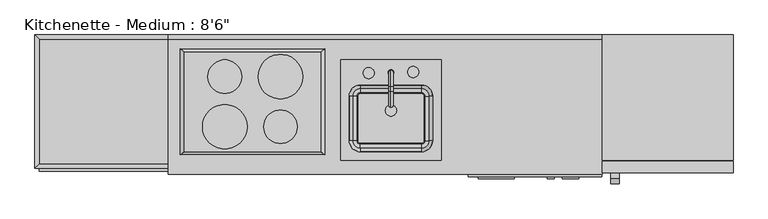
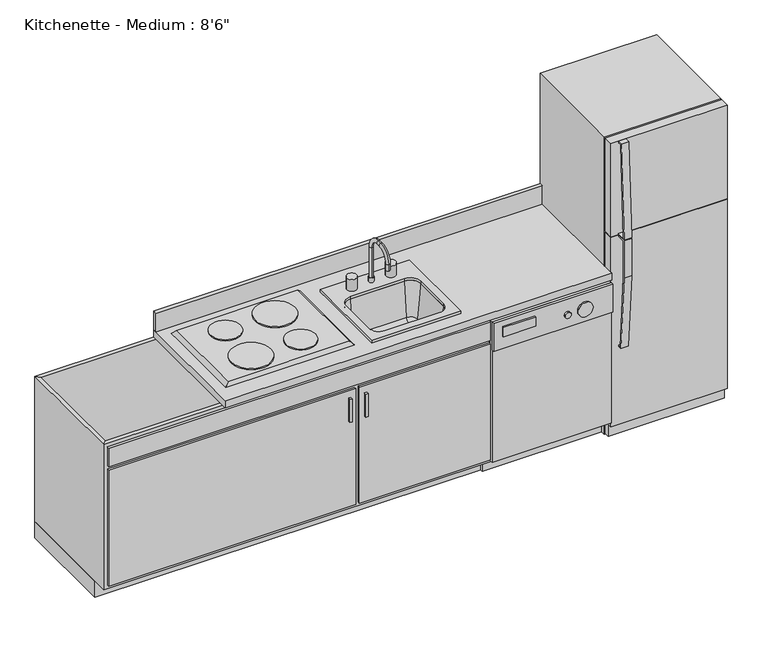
"""IFC4 building model written with IfcOpenShell, lengths in millimetres: proxy geometry."""

from ifc_helpers import new_model, si_unit, point, frame, frame_2d, origin, origin_with_axes, place, context, project, spatial, polyline, circle_curve, ellipse_curve, trimmed, segment, composite_curve, outline, extrude, faceted_brep, source, transform, mapped, element, save
from ifc_brep_helpers import plane_surface, cylinder_surface, revolved_surface, advanced_brep


def proxy_64a468c4(model_context):
    return source(origin(), model_context, "Body", "SolidModel", [
        extrude(outline(polyline([(911.8307496, -655.8359375), (746.7307496, -655.8359375), (746.7307496, -647.7), (911.8307496, -647.7), (911.8307496, -655.8359375)])), frame((0.0, 0.0, 780.0846419), z_axis=(0.0, 0.0, 1.0), x_axis=(1.0, 0.0, 0.0)), (0.0, 0.0, 1.0), 50.8),
        extrude(outline(composite_curve([segment(trimmed(circle_curve(frame_2d((780.0846419, 1168.9176561)), 38.1), [point((780.0846419, 1130.8176561))], [point((780.0846419, 1207.0176561))], False, "CARTESIAN"), True, "CONTINUOUS"), segment(trimmed(circle_curve(frame_2d((780.0846419, 1168.9176561)), 38.1), [point((780.0846419, 1207.0176561))], [point((780.0846419, 1130.8176561))], False, "CARTESIAN"), True, "CONTINUOUS")], self_intersect=False)), frame((0.0, -655.8359375, 0.0), z_axis=(0.0, 1.0, 0.0), x_axis=(0.0, 0.0, 1.0)), (0.0, 0.0, 1.0), 8.1359375),
        extrude(outline(composite_curve([segment(trimmed(circle_curve(frame_2d((780.0846419, 1079.3882607)), 15.875), [point((780.0846419, 1063.5132607))], [point((780.0846419, 1095.2632607))], False, "CARTESIAN"), True, "CONTINUOUS"), segment(trimmed(circle_curve(frame_2d((780.0846419, 1079.3882607)), 15.875), [point((780.0846419, 1095.2632607))], [point((780.0846419, 1063.5132607))], False, "CARTESIAN"), True, "CONTINUOUS")], self_intersect=False)), frame((0.0, -655.8359375, 0.0), z_axis=(0.0, 1.0, 0.0), x_axis=(0.0, 0.0, 1.0)), (0.0, 0.0, 1.0), 8.1359375),
        extrude(outline(polyline([(-25.4, 0.0), (-546.1, 0.0), (-546.1, 101.6), (-609.6, 101.6), (-609.6, 863.6), (-25.4, 863.6), (-25.4, 0.0)])), frame((701.7104113, 0.0, 0.0), z_axis=(1.0, 0.0, 0.0), x_axis=(0.0, 1.0, 0.0)), (0.0, 0.0, 1.0), 609.6),
        extrude(outline(polyline([(1311.3104113, -635.0), (1311.3104113, -647.7), (701.7104113, -647.7), (701.7104113, -635.0), (1311.3104113, -635.0)])), frame((0.0, 0.0, 711.2), z_axis=(0.0, 0.0, 1.0), x_axis=(1.0, 0.0, 0.0)), (0.0, 0.0, 1.0), 152.4),
        extrude(outline(polyline([(1311.3104113, -635.0), (701.7104113, -635.0), (701.7104113, -619.125), (1311.3104113, -619.125), (1311.3104113, -635.0)])), frame((0.0, 0.0, 101.6), z_axis=(0.0, 0.0, 1.0), x_axis=(1.0, 0.0, 0.0)), (0.0, 0.0, 1.0), 762.0),
        extrude(outline(polyline([(1911.0377049, 0.0), (1911.0377049, -571.5), (1314.1377049, -571.5), (1314.1377049, 0.0), (1911.0377049, 0.0)])), origin_with_axes(), (0.0, 0.0, 1.0), 1612.9),
        extrude(outline(polyline([(1911.0377049, -577.85), (1911.0377049, -628.65), (1314.1377049, -628.65), (1314.1377049, -577.85), (1911.0377049, -577.85)])), frame((0.0, 0.0, 1106.4875), z_axis=(0.0, 0.0, 1.0), x_axis=(1.0, 0.0, 0.0)), (0.0, 0.0, 1.0), 506.4125),
        extrude(outline(polyline([(1911.0377049, -577.85), (1911.0377049, -628.65), (1314.1377049, -628.65), (1314.1377049, -577.85), (1911.0377049, -577.85)])), frame((0.0, 0.0, 76.2), z_axis=(0.0, 0.0, 1.0), x_axis=(1.0, 0.0, 0.0)), (0.0, 0.0, 1.0), 1027.1125),
        extrude(outline(polyline([(1911.0377049, -577.85), (1911.0377049, -603.25), (1314.1377049, -603.25), (1314.1377049, -577.85), (1911.0377049, -577.85)])), frame((0.0, 0.0, 9.3816357), z_axis=(0.0, 0.0, 1.0), x_axis=(1.0, 0.0, 0.0)), (0.0, 0.0, 1.0), 63.5),
        extrude(outline(polyline([(-653.4883845, 1612.9), (-629.427057, 1612.9), (-629.427057, 1606.55), (-648.2753164, 1606.55), (-674.1496921, 1112.8375), (-629.427057, 1112.8375), (-629.427057, 1106.4875), (-680.028339, 1106.4875), (-653.4883845, 1612.9)])), frame((1352.2377049, 0.0, 0.0), z_axis=(1.0, 0.0, 0.0), x_axis=(0.0, 1.0, 0.0)), (0.0, 0.0, 1.0), 38.4332978),
        extrude(outline(polyline([(-628.65, 1096.9625), (-673.1, 1096.9625), (-673.1, 900.3342469), (-645.6213702, 507.3715334), (-628.65, 507.3715334), (-628.65, 501.0370017), (-651.5439227, 501.0370017), (-679.45, 900.1125), (-679.45, 1103.3125), (-628.65, 1103.3125), (-628.65, 1096.9625)])), frame((1352.2377049, 0.0, 0.0), z_axis=(1.0, 0.0, 0.0), x_axis=(0.0, 1.0, 0.0)), (0.0, 0.0, 1.0), 38.4332978),
        extrude(outline(composite_curve([segment(trimmed(circle_curve(frame_2d((-409.8872951, -419.1)), 101.6), [point((-308.2872951, -419.1))], [point((-511.4872951, -419.1))], False, "CARTESIAN"), True, "CONTINUOUS"), segment(trimmed(circle_curve(frame_2d((-409.8872951, -419.1)), 101.6), [point((-511.4872951, -419.1))], [point((-308.2872951, -419.1))], False, "CARTESIAN"), True, "CONTINUOUS")], self_intersect=False)), frame((0.0, 0.0, 933.45), z_axis=(0.0, 0.0, 1.0), x_axis=(1.0, 0.0, 0.0)), (0.0, 0.0, 1.0), 6.35),
        faceted_brep([(28.2627049, -76.2, 933.45), (-594.0372951, -76.2, 933.45), (-594.0372951, -533.4, 933.45), (28.2627049, -533.4, 933.45), (47.3127049, -63.5, 914.4), (47.3127049, -546.1, 914.4), (-613.0872951, -546.1, 914.4), (-613.0872951, -63.5, 914.4)], [[[0, 1, 2, 3]], [[4, 5, 6, 7]], [[4, 7, 1, 0]], [[7, 6, 2, 1]], [[6, 5, 3, 2]], [[5, 4, 0, 3]]]),
        extrude(outline(composite_curve([segment(trimmed(circle_curve(frame_2d((-409.8872951, -190.5)), 76.5869489), [point((-333.3003462, -190.5))], [point((-486.474244, -190.5))], False, "CARTESIAN"), True, "CONTINUOUS"), segment(trimmed(circle_curve(frame_2d((-409.8872951, -190.5)), 76.5869489), [point((-486.474244, -190.5))], [point((-333.3003462, -190.5))], False, "CARTESIAN"), True, "CONTINUOUS")], self_intersect=False)), frame((0.0, 0.0, 933.45), z_axis=(0.0, 0.0, 1.0), x_axis=(1.0, 0.0, 0.0)), (0.0, 0.0, 1.0), 6.35),
        extrude(outline(composite_curve([segment(trimmed(circle_curve(frame_2d((-155.8872951, -190.5)), 101.6), [point((-54.2872951, -190.5))], [point((-257.4872951, -190.5))], False, "CARTESIAN"), True, "CONTINUOUS"), segment(trimmed(circle_curve(frame_2d((-155.8872951, -190.5)), 101.6), [point((-257.4872951, -190.5))], [point((-54.2872951, -190.5))], False, "CARTESIAN"), True, "CONTINUOUS")], self_intersect=False)), frame((0.0, 0.0, 933.45), z_axis=(0.0, 0.0, 1.0), x_axis=(1.0, 0.0, 0.0)), (0.0, 0.0, 1.0), 6.35),
        extrude(outline(composite_curve([segment(trimmed(circle_curve(frame_2d((-155.8872951, -419.1)), 76.2), [point((-79.6872951, -419.1))], [point((-232.0872951, -419.1))], False, "CARTESIAN"), True, "CONTINUOUS"), segment(trimmed(circle_curve(frame_2d((-155.8872951, -419.1)), 76.2), [point((-232.0872951, -419.1))], [point((-79.6872951, -419.1))], False, "CARTESIAN"), True, "CONTINUOUS")], self_intersect=False)), frame((0.0, 0.0, 933.45), z_axis=(0.0, 0.0, 1.0), x_axis=(1.0, 0.0, 0.0)), (0.0, 0.0, 1.0), 6.35),
        extrude(outline(polyline([(577.5377049, -114.3), (577.5377049, -571.5), (120.3377049, -571.5), (120.3377049, -114.3), (577.5377049, -114.3)]), holes=[composite_curve([segment(polyline([(488.6377049, -228.6), (209.2377049, -228.6)]), True, "CONTINUOUS"), segment(trimmed(circle_curve(frame_2d((209.2377049, -279.4)), 50.8), [point((209.2377049, -228.6))], [point((158.4377049, -279.4))], True, "CARTESIAN"), True, "CONTINUOUS"), segment(polyline([(158.4377049, -279.4), (158.4377049, -482.6)]), True, "CONTINUOUS"), segment(trimmed(circle_curve(frame_2d((209.2377049, -482.6)), 50.8), [point((158.4377049, -482.6))], [point((209.2377049, -533.4))], True, "CARTESIAN"), True, "CONTINUOUS"), segment(polyline([(209.2377049, -533.4), (488.6377049, -533.4)]), True, "CONTINUOUS"), segment(trimmed(circle_curve(frame_2d((488.6377049, -482.6)), 50.8), [point((488.6377049, -533.4))], [point((539.4377049, -482.6))], True, "CARTESIAN"), True, "CONTINUOUS"), segment(polyline([(539.4377049, -482.6), (539.4377049, -279.4)]), True, "CONTINUOUS"), segment(trimmed(circle_curve(frame_2d((488.6377049, -279.4)), 50.8), [point((539.4377049, -279.4))], [point((488.6377049, -228.6))], True, "CARTESIAN"), True, "CONTINUOUS")], self_intersect=False)]), frame((0.0, 0.0, 914.4), z_axis=(0.0, 0.0, 1.0), x_axis=(1.0, 0.0, 0.0)), (0.0, 0.0, 1.0), 12.7),
        advanced_brep(
        [(545.7877049, -279.4, 698.5), (488.6377049, -222.25, 698.5), (488.6377049, -222.25, 914.4), (545.7877049, -279.4, 914.4), (501.3377049, -279.4, 698.5), (488.6377049, -266.7, 698.5), (501.3377049, -279.4, 708.025), (488.6377049, -266.7, 708.025), (503.9261231, -279.4, 708.025), (488.6377049, -264.1115818, 708.025), (522.9036321, -279.4, 725.4146831), (488.6377049, -245.1340728, 725.4146831), (539.4377049, -279.4, 914.4), (488.6377049, -228.6, 914.4), (545.7877049, -482.6, 914.4), (545.7877049, -482.6, 698.5), (501.3377049, -482.6, 698.5), (501.3377049, -482.6, 708.025), (503.9261231, -482.6, 708.025), (522.9036321, -482.6, 725.4146831), (539.4377049, -482.6, 914.4), (488.6377049, -539.75, 698.5), (488.6377049, -539.75, 914.4), (488.6377049, -495.3, 698.5), (488.6377049, -495.3, 708.025), (488.6377049, -497.8884182, 708.025), (488.6377049, -516.8659272, 725.4146831), (488.6377049, -533.4, 914.4), (209.2377049, -539.75, 914.4), (209.2377049, -539.75, 698.5), (209.2377049, -495.3, 698.5), (209.2377049, -495.3, 708.025), (209.2377049, -497.8884182, 708.025), (209.2377049, -516.8659272, 725.4146831), (209.2377049, -533.4, 914.4), (152.0877049, -482.6, 698.5), (152.0877049, -482.6, 914.4), (196.5377049, -482.6, 698.5), (196.5377049, -482.6, 708.025), (193.9492867, -482.6, 708.025), (174.9717777, -482.6, 725.4146831), (158.4377049, -482.6, 914.4), (152.0877049, -279.4, 914.4), (152.0877049, -279.4, 698.5), (196.5377049, -279.4, 698.5), (196.5377049, -279.4, 708.025), (193.9492867, -279.4, 708.025), (174.9717777, -279.4, 725.4146831), (158.4377049, -279.4, 914.4), (209.2377049, -222.25, 698.5), (209.2377049, -222.25, 914.4), (209.2377049, -266.7, 698.5), (209.2377049, -266.7, 708.025), (209.2377049, -264.1115818, 708.025), (209.2377049, -245.1340728, 725.4146831), (209.2377049, -228.6, 914.4)],
        [
            (0, 1, circle_curve(frame((488.6377049, -279.4, 698.5), z_axis=(0.0, 0.0, 1.0), x_axis=(0.0, 1.0, 0.0)), 57.15)),
            (1, 2),
            (2, 3, circle_curve(frame((488.6377049, -279.4, 914.4), z_axis=(0.0, 0.0, -1.0), x_axis=(0.0, 1.0, 0.0)), 57.15)),
            (3, 0),
            (4, 5, circle_curve(frame((488.6377049, -279.4, 698.5), z_axis=(0.0, 0.0, 1.0), x_axis=(0.0, 1.0, 0.0)), 12.7)),
            (5, 1),
            (0, 4),
            (6, 7, circle_curve(frame((488.6377049, -279.4, 708.025), z_axis=(0.0, 0.0, 1.0), x_axis=(0.0, 1.0, 0.0)), 12.7)),
            (7, 5),
            (4, 6),
            (8, 9, circle_curve(frame((488.6377049, -279.4, 708.025), z_axis=(0.0, 0.0, 1.0), x_axis=(0.0, 1.0, 0.0)), 15.2884182)),
            (9, 7),
            (6, 8),
            (10, 11, circle_curve(frame((488.6377049, -279.4, 725.4146831), z_axis=(0.0, 0.0, 1.0), x_axis=(0.0, 1.0, 0.0)), 34.2659272)),
            (11, 9, circle_curve(frame((488.6377049, -264.1115818, 727.075), z_axis=(-1.0, 0.0, 0.0), x_axis=(0.0, 1.0, 0.0)), 19.05)),
            (8, 10, circle_curve(frame((503.9261231, -279.4, 727.075), z_axis=(0.0, -1.0, 0.0), x_axis=(1.0, 0.0, 0.0)), 19.05)),
            (12, 13, circle_curve(frame((488.6377049, -279.4, 914.4), z_axis=(0.0, 0.0, 1.0), x_axis=(0.0, 1.0, 0.0)), 50.8)),
            (13, 11),
            (10, 12),
            (2, 13),
            (12, 3),
            (3, 14),
            (14, 15),
            (15, 0),
            (15, 16),
            (16, 4),
            (16, 17),
            (17, 6),
            (17, 18),
            (18, 8),
            (18, 19, circle_curve(frame((503.9261231, -482.6, 727.075), z_axis=(0.0, -1.0, 0.0), x_axis=(1.0, 0.0, 0.0)), 19.05)),
            (19, 10),
            (19, 20),
            (20, 12),
            (20, 14),
            (21, 15, circle_curve(frame((488.6377049, -482.6, 698.5), z_axis=(0.0, 0.0, 1.0), x_axis=(1.0, 0.0, 0.0)), 57.15)),
            (14, 22, circle_curve(frame((488.6377049, -482.6, 914.4), z_axis=(0.0, 0.0, -1.0), x_axis=(1.0, 0.0, 0.0)), 57.15)),
            (22, 21),
            (23, 16, circle_curve(frame((488.6377049, -482.6, 698.5), z_axis=(0.0, 0.0, 1.0), x_axis=(1.0, 0.0, 0.0)), 12.7)),
            (21, 23),
            (24, 17, circle_curve(frame((488.6377049, -482.6, 708.025), z_axis=(0.0, 0.0, 1.0), x_axis=(1.0, 0.0, 0.0)), 12.7)),
            (23, 24),
            (25, 18, circle_curve(frame((488.6377049, -482.6, 708.025), z_axis=(0.0, 0.0, 1.0), x_axis=(1.0, 0.0, 0.0)), 15.2884182)),
            (24, 25),
            (26, 19, circle_curve(frame((488.6377049, -482.6, 725.4146831), z_axis=(0.0, 0.0, 1.0), x_axis=(1.0, 0.0, 0.0)), 34.2659272)),
            (25, 26, circle_curve(frame((488.6377049, -497.8884182, 727.075), z_axis=(-1.0, 0.0, 0.0), x_axis=(0.0, -1.0, 0.0)), 19.05)),
            (27, 20, circle_curve(frame((488.6377049, -482.6, 914.4), z_axis=(0.0, 0.0, 1.0), x_axis=(1.0, 0.0, 0.0)), 50.8)),
            (26, 27),
            (27, 22),
            (22, 28),
            (28, 29),
            (29, 21),
            (29, 30),
            (30, 23),
            (30, 31),
            (31, 24),
            (31, 32),
            (32, 25),
            (32, 33, circle_curve(frame((209.2377049, -497.8884182, 727.075), z_axis=(-1.0, 0.0, 0.0), x_axis=(0.0, -1.0, 0.0)), 19.05)),
            (33, 26),
            (33, 34),
            (34, 27),
            (34, 28),
            (35, 29, circle_curve(frame((209.2377049, -482.6, 698.5), z_axis=(0.0, 0.0, 1.0), x_axis=(0.0, -1.0, 0.0)), 57.15)),
            (28, 36, circle_curve(frame((209.2377049, -482.6, 914.4), z_axis=(0.0, 0.0, -1.0), x_axis=(0.0, -1.0, 0.0)), 57.15)),
            (36, 35),
            (37, 30, circle_curve(frame((209.2377049, -482.6, 698.5), z_axis=(0.0, 0.0, 1.0), x_axis=(0.0, -1.0, 0.0)), 12.7)),
            (35, 37),
            (38, 31, circle_curve(frame((209.2377049, -482.6, 708.025), z_axis=(0.0, 0.0, 1.0), x_axis=(0.0, -1.0, 0.0)), 12.7)),
            (37, 38),
            (39, 32, circle_curve(frame((209.2377049, -482.6, 708.025), z_axis=(0.0, 0.0, 1.0), x_axis=(0.0, -1.0, 0.0)), 15.2884182)),
            (38, 39),
            (40, 33, circle_curve(frame((209.2377049, -482.6, 725.4146831), z_axis=(0.0, 0.0, 1.0), x_axis=(0.0, -1.0, 0.0)), 34.2659272)),
            (39, 40, circle_curve(frame((193.9492867, -482.6, 727.075), z_axis=(0.0, 1.0, 0.0), x_axis=(-1.0, 0.0, 0.0)), 19.05)),
            (41, 34, circle_curve(frame((209.2377049, -482.6, 914.4), z_axis=(0.0, 0.0, 1.0), x_axis=(0.0, -1.0, 0.0)), 50.8)),
            (40, 41),
            (41, 36),
            (36, 42),
            (42, 43),
            (43, 35),
            (43, 44),
            (44, 37),
            (44, 45),
            (45, 38),
            (45, 46),
            (46, 39),
            (46, 47, circle_curve(frame((193.9492867, -279.4, 727.075), z_axis=(0.0, 1.0, 0.0), x_axis=(-1.0, 0.0, 0.0)), 19.05)),
            (47, 40),
            (47, 48),
            (48, 41),
            (48, 42),
            (49, 43, circle_curve(frame((209.2377049, -279.4, 698.5), z_axis=(0.0, 0.0, 1.0), x_axis=(-1.0, 0.0, 0.0)), 57.15)),
            (42, 50, circle_curve(frame((209.2377049, -279.4, 914.4), z_axis=(0.0, 0.0, -1.0), x_axis=(-1.0, 0.0, 0.0)), 57.15)),
            (50, 49),
            (51, 44, circle_curve(frame((209.2377049, -279.4, 698.5), z_axis=(0.0, 0.0, 1.0), x_axis=(-1.0, 0.0, 0.0)), 12.7)),
            (49, 51),
            (52, 45, circle_curve(frame((209.2377049, -279.4, 708.025), z_axis=(0.0, 0.0, 1.0), x_axis=(-1.0, 0.0, 0.0)), 12.7)),
            (51, 52),
            (53, 46, circle_curve(frame((209.2377049, -279.4, 708.025), z_axis=(0.0, 0.0, 1.0), x_axis=(-1.0, 0.0, 0.0)), 15.2884182)),
            (52, 53),
            (54, 47, circle_curve(frame((209.2377049, -279.4, 725.4146831), z_axis=(0.0, 0.0, 1.0), x_axis=(-1.0, 0.0, 0.0)), 34.2659272)),
            (53, 54, circle_curve(frame((209.2377049, -264.1115818, 727.075), z_axis=(1.0, 0.0, 0.0), x_axis=(0.0, 1.0, 0.0)), 19.05)),
            (55, 48, circle_curve(frame((209.2377049, -279.4, 914.4), z_axis=(0.0, 0.0, 1.0), x_axis=(-1.0, 0.0, 0.0)), 50.8)),
            (54, 55),
            (55, 50),
            (50, 2),
            (1, 49),
            (5, 51),
            (7, 52),
            (9, 53),
            (11, 54),
            (13, 55),
        ],
        [
            cylinder_surface(frame((488.6377049, -279.4, 0.0), z_axis=(0.0, 0.0, -1.0), x_axis=(0.0, 1.0, 0.0)), 57.15),
            plane_surface(frame((488.6377049, -279.4, 698.5), z_axis=(0.0, 0.0, -1.0), x_axis=(0.0, 1.0, 0.0))),
            revolved_surface(polyline([(488.6377049, -266.7, 698.5), (488.6377049, -266.7, 708.025)]), (488.6377049, -279.4, 0.0), (0.0, 0.0, -1.0)),
            plane_surface(frame((488.6377049, -279.4, 708.025), z_axis=(0.0, 0.0, 1.0), x_axis=(0.0, 1.0, 0.0))),
            revolved_surface(trimmed(ellipse_curve(frame((488.6377049, -264.1115818, 727.075), z_axis=(1.0, 0.0, 0.0), x_axis=(0.0, 1.0, 0.0)), 19.05, 19.05), [point((488.6377049, -264.1115818, 708.025))], [point((488.6377049, -245.1340728, 725.4146831))], True, "CARTESIAN"), (488.6377049, -279.4, 0.0), (0.0, 0.0, -1.0)),
            revolved_surface(polyline([(488.6377049, -245.1340728, 725.4146831), (488.6377049, -228.6, 914.4)]), (488.6377049, -279.4, 0.0), (0.0, 0.0, -1.0)),
            plane_surface(frame((488.6377049, -279.4, 914.4), z_axis=(0.0, 0.0, 1.0), x_axis=(0.0, 1.0, 0.0))),
            plane_surface(frame((545.7877049, -279.4, 914.4), z_axis=(1.0, 0.0, 0.0), x_axis=(0.0, -1.0, 0.0))),
            plane_surface(frame((545.7877049, -279.4, 698.5), z_axis=(0.0, 0.0, -1.0), x_axis=(0.0, -1.0, 0.0))),
            plane_surface(frame((501.3377049, -279.4, 698.5), z_axis=(-1.0, 0.0, 0.0), x_axis=(0.0, -1.0, 0.0))),
            plane_surface(frame((501.3377049, -279.4, 708.025), z_axis=(0.0, 0.0, 1.0), x_axis=(0.0, -1.0, 0.0))),
            revolved_surface(polyline([(522.9761231, -482.6, 727.075), (522.9761231, -279.4, 727.075)]), (503.9261231, -279.4, 727.075), (0.0, -1.0, 0.0)),
            plane_surface(frame((522.9036321, -279.4, 725.4146831), z_axis=(-0.9961946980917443, 0.0, 0.08715574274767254), x_axis=(0.0, -1.0, 0.0))),
            plane_surface(frame((539.4377049, -279.4, 914.4), z_axis=(0.0, 0.0, 1.0), x_axis=(0.0, -1.0, 0.0))),
            cylinder_surface(frame((488.6377049, -482.6, 0.0), z_axis=(0.0, 0.0, -1.0), x_axis=(1.0, 0.0, 0.0)), 57.15),
            plane_surface(frame((488.6377049, -482.6, 698.5), z_axis=(0.0, 0.0, -1.0), x_axis=(1.0, 0.0, 0.0))),
            revolved_surface(polyline([(501.3377049, -482.6, 698.5), (501.3377049, -482.6, 708.025)]), (488.6377049, -482.6, 0.0), (0.0, 0.0, -1.0)),
            plane_surface(frame((488.6377049, -482.6, 708.025), z_axis=(0.0, 0.0, 1.0), x_axis=(1.0, 0.0, 0.0))),
            revolved_surface(trimmed(ellipse_curve(frame((503.9261231, -482.6, 727.075), z_axis=(0.0, -1.0, 0.0), x_axis=(1.0, 0.0, 0.0)), 19.05, 19.05), [point((503.9261231, -482.6, 708.025))], [point((522.9036321, -482.6, 725.4146831))], True, "CARTESIAN"), (488.6377049, -482.6, 0.0), (0.0, 0.0, -1.0)),
            revolved_surface(polyline([(522.9036321, -482.6, 725.4146831), (539.4377049, -482.6, 914.4)]), (488.6377049, -482.6, 0.0), (0.0, 0.0, -1.0)),
            plane_surface(frame((488.6377049, -482.6, 914.4), z_axis=(0.0, 0.0, 1.0), x_axis=(1.0, 0.0, 0.0))),
            plane_surface(frame((488.6377049, -539.75, 914.4), z_axis=(0.0, -1.0, 0.0), x_axis=(-1.0, 0.0, 0.0))),
            plane_surface(frame((488.6377049, -539.75, 698.5), z_axis=(0.0, 0.0, -1.0), x_axis=(-1.0, 0.0, 0.0))),
            plane_surface(frame((488.6377049, -495.3, 698.5), z_axis=(0.0, 1.0, 0.0), x_axis=(-1.0, 0.0, 0.0))),
            plane_surface(frame((488.6377049, -495.3, 708.025), z_axis=(0.0, 0.0, 1.0), x_axis=(-1.0, 0.0, 0.0))),
            revolved_surface(polyline([(209.23770490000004, -516.9384182, 727.075), (488.6377049, -516.9384182, 727.075)]), (488.6377049, -497.8884182, 727.075), (-1.0, 0.0, 0.0)),
            plane_surface(frame((488.6377049, -516.8659272, 725.4146831), z_axis=(0.0, 0.9961946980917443, 0.08715574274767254), x_axis=(-1.0, 0.0, 0.0))),
            plane_surface(frame((488.6377049, -533.4, 914.4), z_axis=(0.0, 0.0, 1.0), x_axis=(-1.0, 0.0, 0.0))),
            cylinder_surface(frame((209.2377049, -482.6, 0.0), z_axis=(0.0, 0.0, -1.0), x_axis=(0.0, -1.0, 0.0)), 57.15),
            plane_surface(frame((209.2377049, -482.6, 698.5), z_axis=(0.0, 0.0, -1.0), x_axis=(0.0, -1.0, 0.0))),
            revolved_surface(polyline([(209.2377049, -495.3, 698.5), (209.2377049, -495.3, 708.025)]), (209.2377049, -482.6, 0.0), (0.0, 0.0, -1.0)),
            plane_surface(frame((209.2377049, -482.6, 708.025), z_axis=(0.0, 0.0, 1.0), x_axis=(0.0, -1.0, 0.0))),
            revolved_surface(trimmed(ellipse_curve(frame((209.2377049, -497.8884182, 727.075), z_axis=(-1.0, 0.0, 0.0), x_axis=(0.0, -1.0, 0.0)), 19.05, 19.05), [point((209.2377049, -497.8884182, 708.025))], [point((209.2377049, -516.8659272, 725.4146831))], True, "CARTESIAN"), (209.2377049, -482.6, 0.0), (0.0, 0.0, -1.0)),
            revolved_surface(polyline([(209.2377049, -516.8659272, 725.4146831), (209.2377049, -533.4, 914.4)]), (209.2377049, -482.6, 0.0), (0.0, 0.0, -1.0)),
            plane_surface(frame((209.2377049, -482.6, 914.4), z_axis=(0.0, 0.0, 1.0), x_axis=(0.0, -1.0, 0.0))),
            plane_surface(frame((152.0877049, -482.6, 914.4), z_axis=(-1.0, 0.0, 0.0), x_axis=(0.0, 1.0, 0.0))),
            plane_surface(frame((152.0877049, -482.6, 698.5), z_axis=(0.0, 0.0, -1.0), x_axis=(0.0, 1.0, 0.0))),
            plane_surface(frame((196.5377049, -482.6, 698.5), z_axis=(1.0, 0.0, 0.0), x_axis=(0.0, 1.0, 0.0))),
            plane_surface(frame((196.5377049, -482.6, 708.025), z_axis=(0.0, 0.0, 1.0), x_axis=(0.0, 1.0, 0.0))),
            revolved_surface(polyline([(174.89928669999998, -279.4, 727.075), (174.89928669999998, -482.6, 727.075)]), (193.9492867, -482.6, 727.075), (0.0, 1.0, 0.0)),
            plane_surface(frame((174.9717777, -482.6, 725.4146831), z_axis=(0.9961946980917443, 0.0, 0.08715574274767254), x_axis=(0.0, 1.0, 0.0))),
            plane_surface(frame((158.4377049, -482.6, 914.4), z_axis=(0.0, 0.0, 1.0), x_axis=(0.0, 1.0, 0.0))),
            cylinder_surface(frame((209.2377049, -279.4, 0.0), z_axis=(0.0, 0.0, -1.0), x_axis=(-1.0, 0.0, 0.0)), 57.15),
            plane_surface(frame((209.2377049, -279.4, 698.5), z_axis=(0.0, 0.0, -1.0), x_axis=(-1.0, 0.0, 0.0))),
            revolved_surface(polyline([(196.53770490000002, -279.4, 698.5), (196.53770490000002, -279.4, 708.025)]), (209.2377049, -279.4, 0.0), (0.0, 0.0, -1.0)),
            plane_surface(frame((209.2377049, -279.4, 708.025), z_axis=(0.0, 0.0, 1.0), x_axis=(-1.0, 0.0, 0.0))),
            revolved_surface(trimmed(ellipse_curve(frame((193.9492867, -279.4, 727.075), z_axis=(0.0, 1.0, 0.0), x_axis=(-1.0, 0.0, 0.0)), 19.05, 19.05), [point((193.9492867, -279.4, 708.025))], [point((174.9717777, -279.4, 725.4146831))], True, "CARTESIAN"), (209.2377049, -279.4, 0.0), (0.0, 0.0, -1.0)),
            revolved_surface(polyline([(174.9717777, -279.4, 725.4146831), (158.4377049, -279.4, 914.4)]), (209.2377049, -279.4, 0.0), (0.0, 0.0, -1.0)),
            plane_surface(frame((209.2377049, -279.4, 914.4), z_axis=(0.0, 0.0, 1.0), x_axis=(-1.0, 0.0, 0.0))),
            plane_surface(frame((209.2377049, -222.25, 914.4), z_axis=(0.0, 1.0, 0.0), x_axis=(1.0, 0.0, 0.0))),
            plane_surface(frame((209.2377049, -222.25, 698.5), z_axis=(0.0, 0.0, -1.0), x_axis=(1.0, 0.0, 0.0))),
            plane_surface(frame((209.2377049, -266.7, 698.5), z_axis=(0.0, -1.0, 0.0), x_axis=(1.0, 0.0, 0.0))),
            plane_surface(frame((209.2377049, -266.7, 708.025), z_axis=(0.0, 0.0, 1.0), x_axis=(1.0, 0.0, 0.0))),
            revolved_surface(polyline([(488.6377049, -245.0615818, 727.075), (209.2377049, -245.0615818, 727.075)]), (209.2377049, -264.1115818, 727.075), (1.0, 0.0, 0.0)),
            plane_surface(frame((209.2377049, -245.1340728, 725.4146831), z_axis=(0.0, -0.9961946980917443, 0.08715574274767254), x_axis=(1.0, 0.0, 0.0))),
            plane_surface(frame((209.2377049, -228.6, 914.4), z_axis=(0.0, 0.0, 1.0), x_axis=(1.0, 0.0, 0.0))),
        ],
        [
            (0, [[1, 2, 3, 4]]),
            (1, [[5, 6, -1, 7]]),
            (2, [[8, 9, -5, 10]]),
            (3, [[11, 12, -8, 13]]),
            (4, [[14, 15, -11, 16]]),
            (5, [[17, 18, -14, 19]]),
            (6, [[-3, 20, -17, 21]]),
            (7, [[-4, 22, 23, 24]]),
            (8, [[-7, -24, 25, 26]]),
            (9, [[-10, -26, 27, 28]]),
            (10, [[-13, -28, 29, 30]]),
            (11, [[-16, -30, 31, 32]]),
            (12, [[-19, -32, 33, 34]]),
            (13, [[-21, -34, 35, -22]]),
            (14, [[36, -23, 37, 38]]),
            (15, [[39, -25, -36, 40]]),
            (16, [[41, -27, -39, 42]]),
            (17, [[43, -29, -41, 44]]),
            (18, [[45, -31, -43, 46]]),
            (19, [[47, -33, -45, 48]]),
            (20, [[-37, -35, -47, 49]]),
            (21, [[-38, 50, 51, 52]]),
            (22, [[-40, -52, 53, 54]]),
            (23, [[-42, -54, 55, 56]]),
            (24, [[-44, -56, 57, 58]]),
            (25, [[-46, -58, 59, 60]]),
            (26, [[-48, -60, 61, 62]]),
            (27, [[-49, -62, 63, -50]]),
            (28, [[64, -51, 65, 66]]),
            (29, [[67, -53, -64, 68]]),
            (30, [[69, -55, -67, 70]]),
            (31, [[71, -57, -69, 72]]),
            (32, [[73, -59, -71, 74]]),
            (33, [[75, -61, -73, 76]]),
            (34, [[-65, -63, -75, 77]]),
            (35, [[-66, 78, 79, 80]]),
            (36, [[-68, -80, 81, 82]]),
            (37, [[-70, -82, 83, 84]]),
            (38, [[-72, -84, 85, 86]]),
            (39, [[-74, -86, 87, 88]]),
            (40, [[-76, -88, 89, 90]]),
            (41, [[-77, -90, 91, -78]]),
            (42, [[92, -79, 93, 94]]),
            (43, [[95, -81, -92, 96]]),
            (44, [[97, -83, -95, 98]]),
            (45, [[99, -85, -97, 100]]),
            (46, [[101, -87, -99, 102]]),
            (47, [[103, -89, -101, 104]]),
            (48, [[-93, -91, -103, 105]]),
            (49, [[-94, 106, -2, 107]]),
            (50, [[-96, -107, -6, 108]]),
            (51, [[-98, -108, -9, 109]]),
            (52, [[-100, -109, -12, 110]]),
            (53, [[-102, -110, -15, 111]]),
            (54, [[-104, -111, -18, 112]]),
            (55, [[-105, -112, -20, -106]]),
        ],
    ),
        extrude(outline(composite_curve([segment(trimmed(circle_curve(frame_2d((488.6377049, -279.4)), 12.7), [point((488.6377049, -266.7))], [point((501.3377049, -279.4))], False, "CARTESIAN"), True, "CONTINUOUS"), segment(polyline([(501.3377049, -279.4), (501.3377049, -482.6)]), True, "CONTINUOUS"), segment(trimmed(circle_curve(frame_2d((488.6377049, -482.6)), 12.7), [point((501.3377049, -482.6))], [point((488.6377049, -495.3))], False, "CARTESIAN"), True, "CONTINUOUS"), segment(polyline([(488.6377049, -495.3), (209.2377049, -495.3)]), True, "CONTINUOUS"), segment(trimmed(circle_curve(frame_2d((209.2377049, -482.6)), 12.7), [point((209.2377049, -495.3))], [point((196.5377049, -482.6))], False, "CARTESIAN"), True, "CONTINUOUS"), segment(polyline([(196.5377049, -482.6), (196.5377049, -279.4)]), True, "CONTINUOUS"), segment(trimmed(circle_curve(frame_2d((209.2377049, -279.4)), 12.7), [point((196.5377049, -279.4))], [point((209.2377049, -266.7))], False, "CARTESIAN"), True, "CONTINUOUS"), segment(polyline([(209.2377049, -266.7), (488.6377049, -266.7)]), True, "CONTINUOUS")], self_intersect=False), holes=[composite_curve([segment(trimmed(circle_curve(frame_2d((348.9377049, -345.2454011)), 25.4), [point((323.5377049, -345.2454011))], [point((374.3377049, -345.2454011))], True, "CARTESIAN"), True, "CONTINUOUS"), segment(trimmed(circle_curve(frame_2d((348.9377049, -345.2454011)), 25.4), [point((374.3377049, -345.2454011))], [point((323.5377049, -345.2454011))], True, "CARTESIAN"), True, "CONTINUOUS")], self_intersect=False)]), frame((0.0, 0.0, 698.5), z_axis=(0.0, 0.0, 1.0), x_axis=(1.0, 0.0, 0.0)), (0.0, 0.0, 1.0), 9.525),
        extrude(outline(composite_curve([segment(trimmed(circle_curve(frame_2d((247.3377049, -174.5287936)), 25.4), [point((221.9377049, -174.5287936))], [point((272.7377049, -174.5287936))], False, "CARTESIAN"), True, "CONTINUOUS"), segment(trimmed(circle_curve(frame_2d((247.3377049, -174.5287936)), 25.4), [point((272.7377049, -174.5287936))], [point((221.9377049, -174.5287936))], False, "CARTESIAN"), True, "CONTINUOUS")], self_intersect=False)), frame((0.0, 0.0, 927.1), z_axis=(0.0, 0.0, 1.0), x_axis=(1.0, 0.0, 0.0)), (0.0, 0.0, 1.0), 63.5),
        extrude(outline(composite_curve([segment(trimmed(circle_curve(frame_2d((450.5377049, -169.3320688)), 25.4), [point((425.1377049, -169.3320688))], [point((475.9377049, -169.3320688))], False, "CARTESIAN"), True, "CONTINUOUS"), segment(trimmed(circle_curve(frame_2d((450.5377049, -169.3320688)), 25.4), [point((475.9377049, -169.3320688))], [point((425.1377049, -169.3320688))], False, "CARTESIAN"), True, "CONTINUOUS")], self_intersect=False)), frame((0.0, 0.0, 927.1), z_axis=(0.0, 0.0, 1.0), x_axis=(1.0, 0.0, 0.0)), (0.0, 0.0, 1.0), 63.5),
        advanced_brep(
        [(348.9377049, -161.925, 927.1), (348.9377049, -180.975, 927.1), (348.9377049, -161.925, 1114.425), (348.9377049, -180.975, 1114.425), (348.9377049, -234.95, 1168.4), (348.9377049, -234.95, 1187.45), (348.9377049, -257.175, 1187.45), (348.9377049, -257.175, 1168.4), (348.9377049, -311.15, 1114.425), (348.9377049, -330.2, 1114.425), (348.9377049, -330.2, 1079.5), (348.9377049, -311.15, 1079.5)],
        [
            (0, 1, circle_curve(frame((348.9377049, -171.45, 927.1), z_axis=(0.0, 0.0, -1.0), x_axis=(0.0, -1.0, 0.0)), 9.525)),
            (1, 0, circle_curve(frame((348.9377049, -171.45, 927.1), z_axis=(0.0, 0.0, -1.0), x_axis=(0.0, -1.0, 0.0)), 9.525)),
            (0, 2),
            (2, 3, circle_curve(frame((348.9377049, -171.45, 1114.425), z_axis=(0.0, 0.0, -1.0), x_axis=(0.0, -1.0, 0.0)), 9.525)),
            (3, 1),
            (3, 2, circle_curve(frame((348.9377049, -171.45, 1114.425), z_axis=(0.0, 0.0, -1.0), x_axis=(0.0, -1.0, 0.0)), 9.525)),
            (4, 3, circle_curve(frame((348.9377049, -234.95, 1114.425), z_axis=(-1.0, 0.0, 0.0), x_axis=(0.0, 1.0, 0.0)), 53.975)),
            (2, 5, circle_curve(frame((348.9377049, -234.95, 1114.425), z_axis=(1.0, 0.0, 0.0), x_axis=(0.0, 1.0, 0.0)), 73.025)),
            (5, 4, circle_curve(frame((348.9377049, -234.95, 1177.925), z_axis=(0.0, 1.0, 0.0), x_axis=(0.0, 0.0, -1.0)), 9.525)),
            (4, 5, circle_curve(frame((348.9377049, -234.95, 1177.925), z_axis=(0.0, 1.0, 0.0), x_axis=(0.0, 0.0, -1.0)), 9.525)),
            (5, 6),
            (6, 7, circle_curve(frame((348.9377049, -257.175, 1177.925), z_axis=(0.0, 1.0, 0.0), x_axis=(0.0, 0.0, -1.0)), 9.525)),
            (7, 4),
            (7, 6, circle_curve(frame((348.9377049, -257.175, 1177.925), z_axis=(0.0, 1.0, 0.0), x_axis=(0.0, 0.0, -1.0)), 9.525)),
            (8, 7, circle_curve(frame((348.9377049, -257.175, 1114.425), z_axis=(-1.0, 0.0, 0.0), x_axis=(0.0, 0.0, 1.0)), 53.975)),
            (6, 9, circle_curve(frame((348.9377049, -257.175, 1114.425), z_axis=(1.0, 0.0, 0.0), x_axis=(0.0, 0.0, 1.0)), 73.025)),
            (9, 8, circle_curve(frame((348.9377049, -320.675, 1114.425), z_axis=(0.0, 0.0, 1.0), x_axis=(0.0, 1.0, 0.0)), 9.525)),
            (8, 9, circle_curve(frame((348.9377049, -320.675, 1114.425), z_axis=(0.0, 0.0, 1.0), x_axis=(0.0, 1.0, 0.0)), 9.525)),
            (10, 11, circle_curve(frame((348.9377049, -320.675, 1079.5), z_axis=(0.0, 0.0, -1.0), x_axis=(0.0, 1.0, 0.0)), 9.525)),
            (11, 10, circle_curve(frame((348.9377049, -320.675, 1079.5), z_axis=(0.0, 0.0, -1.0), x_axis=(0.0, 1.0, 0.0)), 9.525)),
            (9, 10),
            (11, 8),
        ],
        [
            plane_surface(frame((348.9377049, -180.975, 927.1), z_axis=(0.0, 0.0, -1.0), x_axis=(1.0, 0.0, 0.0))),
            cylinder_surface(frame((348.9377049, -171.45, 927.1), z_axis=(0.0, 0.0, -1.0), x_axis=(0.0, -1.0, 0.0)), 9.525),
            revolved_surface(trimmed(ellipse_curve(frame((348.9377049, -171.45, 1114.425), z_axis=(0.0, 0.0, -1.0), x_axis=(0.0, -1.0, 0.0)), 9.525, 9.525), [point((348.9377049, -161.925, 1114.425))], [point((348.9377049, -180.975, 1114.425))], True, "CARTESIAN"), (348.9377049, -234.95, 1114.425), (1.0, 0.0, 0.0)),
            revolved_surface(trimmed(ellipse_curve(frame((348.9377049, -171.45, 1114.425), z_axis=(0.0, 0.0, -1.0), x_axis=(0.0, -1.0, 0.0)), 9.525, 9.525), [point((348.9377049, -180.975, 1114.425))], [point((348.9377049, -161.925, 1114.425))], True, "CARTESIAN"), (348.9377049, -234.95, 1114.425), (1.0, 0.0, 0.0)),
            cylinder_surface(frame((348.9377049, -234.95, 1177.925), z_axis=(0.0, 1.0, 0.0), x_axis=(0.0, 0.0, -1.0)), 9.525),
            revolved_surface(trimmed(ellipse_curve(frame((348.9377049, -257.175, 1177.925), z_axis=(0.0, 1.0, 0.0), x_axis=(0.0, 0.0, -1.0)), 9.525, 9.525), [point((348.9377049, -257.175, 1187.45))], [point((348.9377049, -257.175, 1168.4))], True, "CARTESIAN"), (348.9377049, -257.175, 1114.425), (1.0, 0.0, 0.0)),
            revolved_surface(trimmed(ellipse_curve(frame((348.9377049, -257.175, 1177.925), z_axis=(0.0, 1.0, 0.0), x_axis=(0.0, 0.0, -1.0)), 9.525, 9.525), [point((348.9377049, -257.175, 1168.4))], [point((348.9377049, -257.175, 1187.45))], True, "CARTESIAN"), (348.9377049, -257.175, 1114.425), (1.0, 0.0, 0.0)),
            plane_surface(frame((348.9377049, -330.2, 1079.5), z_axis=(0.0, 0.0, -1.0), x_axis=(-1.0, 0.0, 0.0))),
            cylinder_surface(frame((348.9377049, -320.675, 1114.425), z_axis=(0.0, 0.0, 1.0), x_axis=(0.0, 1.0, 0.0)), 9.525),
        ],
        [
            (0, [[1, 2]]),
            (1, [[-1, 3, 4, 5]]),
            (1, [[-2, -5, 6, -3]]),
            (2, [[7, -4, 8, 9]]),
            (3, [[-8, -6, -7, 10]]),
            (4, [[-9, 11, 12, 13]]),
            (4, [[-10, -13, 14, -11]]),
            (5, [[15, -12, 16, 17]]),
            (6, [[-16, -14, -15, 18]]),
            (7, [[19, 20]]),
            (8, [[-17, 21, -20, 22]]),
            (8, [[-18, -22, -19, -21]]),
        ],
    ),
        extrude(outline(composite_curve([segment(trimmed(circle_curve(frame_2d((348.9377049, -171.45)), 12.7), [point((336.2377049, -171.45))], [point((361.6377049, -171.45))], False, "CARTESIAN"), True, "CONTINUOUS"), segment(trimmed(circle_curve(frame_2d((348.9377049, -171.45)), 12.7), [point((361.6377049, -171.45))], [point((336.2377049, -171.45))], False, "CARTESIAN"), True, "CONTINUOUS")], self_intersect=False)), frame((0.0, 0.0, 927.1), z_axis=(0.0, 0.0, 1.0), x_axis=(1.0, 0.0, 0.0)), (0.0, 0.0, 1.0), 25.4),
        extrude(outline(polyline([(1314.1377049, 0.0), (1314.1377049, -635.0), (-667.0622951, -635.0), (-667.0622951, 0.0), (1314.1377049, 0.0)]), holes=[composite_curve([segment(polyline([(514.0377049, -139.7), (183.8377049, -139.7)]), True, "CONTINUOUS"), segment(trimmed(circle_curve(frame_2d((183.8377049, -190.5)), 50.8), [point((183.8377049, -139.7))], [point((133.0377049, -190.5))], True, "CARTESIAN"), True, "CONTINUOUS"), segment(polyline([(133.0377049, -190.5), (133.0377049, -495.3)]), True, "CONTINUOUS"), segment(trimmed(circle_curve(frame_2d((183.8377049, -495.3)), 50.8), [point((133.0377049, -495.3))], [point((183.8377049, -546.1))], True, "CARTESIAN"), True, "CONTINUOUS"), segment(polyline([(183.8377049, -546.1), (514.0377049, -546.1)]), True, "CONTINUOUS"), segment(trimmed(circle_curve(frame_2d((514.0377049, -495.3)), 50.8), [point((514.0377049, -546.1))], [point((564.8377049, -495.3))], True, "CARTESIAN"), True, "CONTINUOUS"), segment(polyline([(564.8377049, -495.3), (564.8377049, -190.5)]), True, "CONTINUOUS"), segment(trimmed(circle_curve(frame_2d((514.0377049, -190.5)), 50.8), [point((564.8377049, -190.5))], [point((514.0377049, -139.7))], True, "CARTESIAN"), True, "CONTINUOUS")], self_intersect=False)]), frame((0.0, 0.0, 876.3), z_axis=(0.0, 0.0, 1.0), x_axis=(1.0, 0.0, 0.0)), (0.0, 0.0, 1.0), 38.1),
        extrude(outline(polyline([(-667.0622951, 0.0), (1314.1377049, 0.0), (1314.1377049, -19.05), (-667.0622951, -19.05), (-667.0622951, 0.0)])), frame((0.0, 0.0, 914.4), z_axis=(0.0, 0.0, 1.0), x_axis=(1.0, 0.0, 0.0)), (0.0, 0.0, 1.0), 101.6),
        extrude(outline(polyline([(-16.1872951, -635.0), (-28.8872951, -635.0), (-28.8872951, -622.3), (-16.1872951, -622.3), (-16.1872951, -635.0)])), frame((0.0, 0.0, 573.769895), z_axis=(0.0, 0.0, 1.0), x_axis=(1.0, 0.0, 0.0)), (0.0, 0.0, 1.0), 124.730105),
        extrude(outline(polyline([(66.3627049, -635.0), (53.6627049, -635.0), (53.6627049, -622.3), (66.3627049, -622.3), (66.3627049, -635.0)])), frame((0.0, 0.0, 573.769895), z_axis=(0.0, 0.0, 1.0), x_axis=(1.0, 0.0, 0.0)), (0.0, 0.0, 1.0), 124.730105),
        extrude(outline(polyline([(1295.0877049, -19.05), (1295.0877049, -590.55), (-1257.6122951, -590.55), (-1257.6122951, -19.05), (1295.0877049, -19.05)])), frame((0.0, 0.0, 88.9), z_axis=(0.0, 0.0, 1.0), x_axis=(1.0, 0.0, 0.0)), (0.0, 0.0, 1.0), 19.05),
        faceted_brep([(1295.0877049, -590.55, 876.3), (1295.0877049, -590.55, 88.9), (-1257.6122951, -590.55, 88.9), (-1257.6122951, -590.55, 876.3), (1314.1377049, -609.6, 876.3), (-1276.6622951, -609.6, 876.3), (1314.1377049, -609.6, 88.9), (-1276.6622951, -609.6, 88.9), (-1257.6122951, -19.05, 88.9), (-1257.6122951, -19.05, 876.3), (-1276.6622951, 0.0, 876.3), (-1276.6622951, 0.0, 88.9), (1295.0877049, -19.05, 88.9), (1295.0877049, -19.05, 876.3), (1314.1377049, 0.0, 876.3), (1314.1377049, 0.0, 88.9)], [[[0, 1, 2, 3]], [[4, 0, 3, 5]], [[6, 4, 5, 7]], [[1, 6, 7, 2]], [[3, 2, 8, 9]], [[5, 3, 9, 10]], [[7, 5, 10, 11]], [[2, 7, 11, 8]], [[9, 8, 12, 13]], [[10, 9, 13, 14]], [[11, 10, 14, 15]], [[8, 11, 15, 12]], [[13, 12, 1, 0]], [[14, 13, 0, 4]], [[15, 14, 4, 6]], [[12, 15, 6, 1]]]),
        extrude(outline(polyline([(1314.1377049, 0.0), (1314.1377049, -533.4), (-1276.6622951, -533.4), (-1276.6622951, 0.0), (1314.1377049, 0.0)])), origin_with_axes(), (0.0, 0.0, 1.0), 88.9),
        extrude(outline(polyline([(9.2127049, -622.3), (-1257.6122951, -622.3), (-1257.6122951, -609.6), (9.2127049, -609.6), (9.2127049, -622.3)])), frame((0.0, 0.0, 107.95), z_axis=(0.0, 0.0, 1.0), x_axis=(1.0, 0.0, 0.0)), (0.0, 0.0, 1.0), 628.65),
        extrude(outline(polyline([(1295.0877049, -622.3), (28.2627049, -622.3), (28.2627049, -609.6), (1295.0877049, -609.6), (1295.0877049, -622.3)])), frame((0.0, 0.0, 107.95), z_axis=(0.0, 0.0, 1.0), x_axis=(1.0, 0.0, 0.0)), (0.0, 0.0, 1.0), 628.65),
        extrude(outline(polyline([(1295.0877049, -622.3), (-1257.6122951, -622.3), (-1257.6122951, -609.6), (1295.0877049, -609.6), (1295.0877049, -622.3)])), frame((0.0, 0.0, 755.65), z_axis=(0.0, 0.0, 1.0), x_axis=(1.0, 0.0, 0.0)), (0.0, 0.0, 1.0), 101.6),
    ])


if __name__ == "__main__":
    model = new_model("IFC4")
    model_context = context("Model", 3, world=origin())
    ifc_project = project(units=[si_unit("LENGTHUNIT", "METRE", prefix="MILLI")], contexts=[model_context])
    site = spatial("IfcSite", under=ifc_project)
    building = spatial("IfcBuilding", under=site)
    placement = place(None, origin())
    proxy_shape = proxy_64a468c4(model_context)
    element("IfcBuildingElementProxy", 1, Name="Kitchenette - Medium : 8'6\"", ObjectType="Kitchenette - Medium : 8'6\"", at=placement, inside=building, context=model_context, shape_type="MappedRepresentation", body=[
        mapped(proxy_shape, transform((0.0, 0.0, 0.0), x_axis=(1.0, 0.0, 0.0), y_axis=(0.0, 1.0, 0.0), z_axis=(0.0, 0.0, 1.0))),
    ])
    save(model, "model.ifc")
